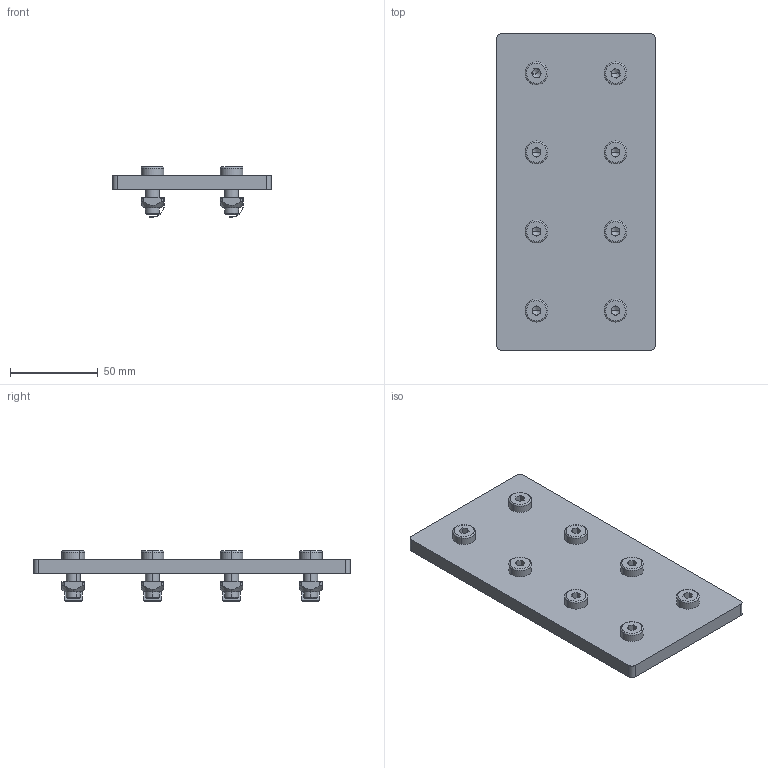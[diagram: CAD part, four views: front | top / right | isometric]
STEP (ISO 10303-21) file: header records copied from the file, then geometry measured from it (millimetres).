
FILE_DESCRIPTION (( 'STEP AP214' ), '1' );
FILE_NAME ('1.3073 90X90 Sivukiinnityslevy.STEP', '2025-12-01T09:04:44', ( '' ), ( '' ), 'SwSTEP 2.0', 'SolidWorks 2025', '' );
FILE_SCHEMA (( 'AUTOMOTIVE_DESIGN' ));
Length unit declared in the file: millimetre
Products named in the file (1): 1.3073 90X90 Sivukiinnityslevy
Bounding box: 90 x 180 x 28.65 mm (x, y, z)
Volume: 144572.9 mm3; surface area: 52571.7 mm2
Topology: 17 solids, 17 shells, 506 faces, 1224 edges, 752 vertices
Faces by surface type: plane 302, cylinder 100, cone 72, torus 32
Entity records: 21101 total; most frequent: CARTESIAN_POINT 3595, DIRECTION 2438, ORIENTED_EDGE 2416, EDGE_CURVE 1208, AXIS2_PLACEMENT_3D 875, VERTEX_POINT 752, LINE 688, VECTOR 688
